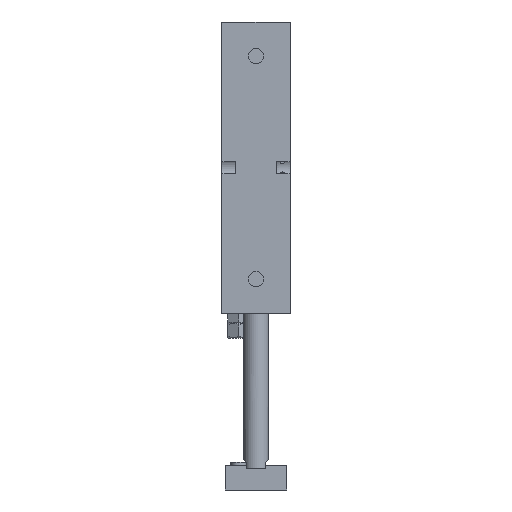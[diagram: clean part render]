
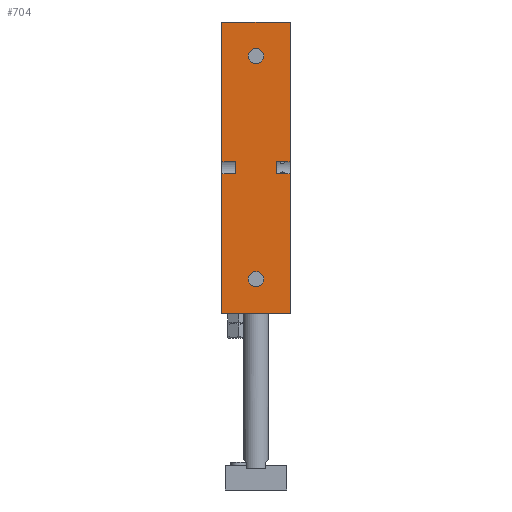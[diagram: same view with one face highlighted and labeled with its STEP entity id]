
A CAD part, front view. The second image highlights one B-rep face of the part: STEP entity #704.
In plain terms, the highlighted planar face has unit normal (0, -1, 0).
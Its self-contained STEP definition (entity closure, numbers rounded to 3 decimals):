
#195=CARTESIAN_POINT('',(2.5,-27.0,140.));
#196=VERTEX_POINT('',#195);
#197=CARTESIAN_POINT('',(0.0,-27.0,140.));
#198=DIRECTION('',(0.0,1.0,0.0));
#199=DIRECTION('',(-1.0,0.0,0.0));
#200=AXIS2_PLACEMENT_3D('',#197,#198,#199);
#201=CIRCLE('',#200,2.5);
#202=EDGE_CURVE('',#196,#196,#201,.T.);
#232=CARTESIAN_POINT('',(2.5,-27.0,68.0));
#233=VERTEX_POINT('',#232);
#234=CARTESIAN_POINT('',(0.0,-27.0,68.0));
#235=DIRECTION('',(0.0,1.0,0.0));
#236=DIRECTION('',(-1.0,0.0,0.0));
#237=AXIS2_PLACEMENT_3D('',#234,#235,#236);
#238=CIRCLE('',#237,2.5);
#239=EDGE_CURVE('',#233,#233,#238,.T.);
#485=CARTESIAN_POINT('',(-6.6,-27.0,105.936));
#486=VERTEX_POINT('',#485);
#487=CARTESIAN_POINT('',(-6.6,-27.0,102.064));
#488=VERTEX_POINT('',#487);
#489=CARTESIAN_POINT('',(-6.6,-27.0,105.936));
#490=DIRECTION('',(0.0,0.0,-1.0));
#491=VECTOR('',#490,3.873);
#492=LINE('',#489,#491);
#493=EDGE_CURVE('',#486,#488,#492,.T.);
#542=CARTESIAN_POINT('',(-11.,-27.0,105.936));
#543=VERTEX_POINT('',#542);
#544=CARTESIAN_POINT('',(-11.,-27.0,105.936));
#545=DIRECTION('',(1.0,0.0,0.0));
#546=VECTOR('',#545,4.4);
#547=LINE('',#544,#546);
#548=EDGE_CURVE('',#543,#486,#547,.T.);
#550=CARTESIAN_POINT('',(-11.,-27.0,102.064));
#551=VERTEX_POINT('',#550);
#559=CARTESIAN_POINT('',(-6.6,-27.0,102.064));
#560=DIRECTION('',(-1.0,0.0,0.0));
#561=VECTOR('',#560,4.4);
#562=LINE('',#559,#561);
#563=EDGE_CURVE('',#488,#551,#562,.T.);
#618=CARTESIAN_POINT('',(11.,-27.0,57.0));
#619=DIRECTION('',(0.0,-1.0,0.0));
#620=DIRECTION('',(0.0,0.0,-1.0));
#621=AXIS2_PLACEMENT_3D('',#618,#619,#620);
#622=PLANE('',#621);
#623=ORIENTED_EDGE('',*,*,#548,.T.);
#624=ORIENTED_EDGE('',*,*,#493,.T.);
#625=ORIENTED_EDGE('',*,*,#563,.T.);
#626=CARTESIAN_POINT('',(-11.,-27.0,57.0));
#627=VERTEX_POINT('',#626);
#628=CARTESIAN_POINT('',(-11.,-27.0,57.0));
#629=DIRECTION('',(0.0,0.0,1.0));
#630=VECTOR('',#629,45.064);
#631=LINE('',#628,#630);
#632=EDGE_CURVE('',#627,#551,#631,.T.);
#633=ORIENTED_EDGE('',*,*,#632,.F.);
#634=CARTESIAN_POINT('',(11.,-27.0,57.0));
#635=VERTEX_POINT('',#634);
#636=CARTESIAN_POINT('',(11.,-27.0,57.0));
#637=DIRECTION('',(-1.0,0.0,0.0));
#638=VECTOR('',#637,22.);
#639=LINE('',#636,#638);
#640=EDGE_CURVE('',#635,#627,#639,.T.);
#641=ORIENTED_EDGE('',*,*,#640,.F.);
#642=CARTESIAN_POINT('',(11.,-27.0,102.064));
#643=VERTEX_POINT('',#642);
#644=CARTESIAN_POINT('',(11.,-27.0,57.0));
#645=DIRECTION('',(0.0,0.0,1.0));
#646=VECTOR('',#645,45.064);
#647=LINE('',#644,#646);
#648=EDGE_CURVE('',#635,#643,#647,.T.);
#649=ORIENTED_EDGE('',*,*,#648,.T.);
#650=CARTESIAN_POINT('',(6.6,-27.0,102.064));
#651=VERTEX_POINT('',#650);
#652=CARTESIAN_POINT('',(11.,-27.0,102.064));
#653=DIRECTION('',(-1.0,0.0,0.0));
#654=VECTOR('',#653,4.4);
#655=LINE('',#652,#654);
#656=EDGE_CURVE('',#643,#651,#655,.T.);
#657=ORIENTED_EDGE('',*,*,#656,.T.);
#658=CARTESIAN_POINT('',(6.6,-27.0,105.936));
#659=VERTEX_POINT('',#658);
#660=CARTESIAN_POINT('',(6.6,-27.0,102.064));
#661=DIRECTION('',(0.0,0.0,1.0));
#662=VECTOR('',#661,3.873);
#663=LINE('',#660,#662);
#664=EDGE_CURVE('',#651,#659,#663,.T.);
#665=ORIENTED_EDGE('',*,*,#664,.T.);
#666=CARTESIAN_POINT('',(11.,-27.0,105.936));
#667=VERTEX_POINT('',#666);
#668=CARTESIAN_POINT('',(6.6,-27.0,105.936));
#669=DIRECTION('',(1.0,0.0,0.0));
#670=VECTOR('',#669,4.4);
#671=LINE('',#668,#670);
#672=EDGE_CURVE('',#659,#667,#671,.T.);
#673=ORIENTED_EDGE('',*,*,#672,.T.);
#674=CARTESIAN_POINT('',(11.,-27.0,151.));
#675=VERTEX_POINT('',#674);
#676=CARTESIAN_POINT('',(11.,-27.0,105.936));
#677=DIRECTION('',(0.0,0.0,1.0));
#678=VECTOR('',#677,45.064);
#679=LINE('',#676,#678);
#680=EDGE_CURVE('',#667,#675,#679,.T.);
#681=ORIENTED_EDGE('',*,*,#680,.T.);
#682=CARTESIAN_POINT('',(-11.,-27.0,151.));
#683=VERTEX_POINT('',#682);
#684=CARTESIAN_POINT('',(11.,-27.0,151.));
#685=DIRECTION('',(-1.0,0.0,0.0));
#686=VECTOR('',#685,22.);
#687=LINE('',#684,#686);
#688=EDGE_CURVE('',#675,#683,#687,.T.);
#689=ORIENTED_EDGE('',*,*,#688,.T.);
#690=CARTESIAN_POINT('',(-11.,-27.0,105.936));
#691=DIRECTION('',(0.0,0.0,1.0));
#692=VECTOR('',#691,45.064);
#693=LINE('',#690,#692);
#694=EDGE_CURVE('',#543,#683,#693,.T.);
#695=ORIENTED_EDGE('',*,*,#694,.F.);
#696=EDGE_LOOP('',(#623,#624,#625,#633,#641,#649,#657,#665,#673,#681,#689,#695));
#697=FACE_OUTER_BOUND('',#696,.T.);
#698=ORIENTED_EDGE('',*,*,#202,.T.);
#699=EDGE_LOOP('',(#698));
#700=FACE_BOUND('',#699,.T.);
#701=ORIENTED_EDGE('',*,*,#239,.T.);
#702=EDGE_LOOP('',(#701));
#703=FACE_BOUND('',#702,.T.);
#704=ADVANCED_FACE('',(#697,#700,#703),#622,.T.);
